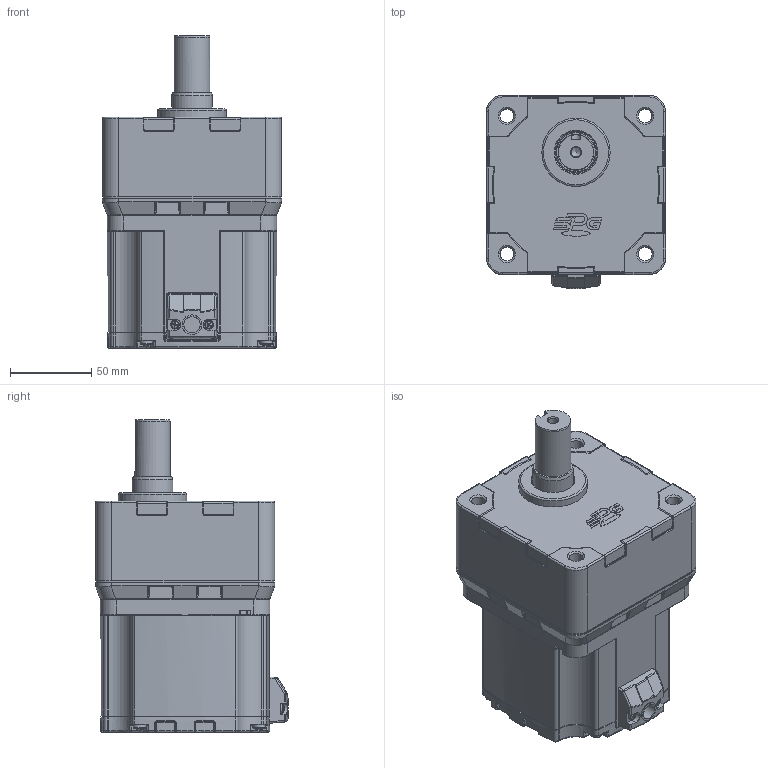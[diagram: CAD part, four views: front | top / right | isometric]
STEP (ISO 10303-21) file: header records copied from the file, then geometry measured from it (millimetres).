
FILE_DESCRIPTION((''),'2;1');
FILE_NAME('C:\Documents and Settings\Administrator\바탕 화면\BLDC 3D FILE\GEARED MOTOR\104-RATIO 5~20.stp','2014-06-19T16:10:16',('kdhkdh'),(''),'Autodesk Inventor 2011','Autodesk Inventor 2011','');
FILE_SCHEMA(('AUTOMOTIVE_DESIGN { 1 0 10303 214 1 1 1 1 }'));
Length unit declared in the file: millimetre
Products named in the file (1): 부품1
Bounding box: 110 x 118.5 x 192 mm (x, y, z)
Volume: 1238927.3 mm3; surface area: 191147.2 mm2
Topology: 1 solids, 14 shells, 1268 faces, 3160 edges, 1901 vertices
Faces by surface type: cylinder 432, plane 362, torus 183, bspline 148, cone 109, sphere 34
Full cylindrical faces by diameter (mm): 2.729 x2, 3 x2, 3.5 x2, 3.621 x4, 4 x12, 4.5 x8, 5.3 x2, 6 x1, 7.64 x4, 8 x4, 8.5 x8, 9.5 x4, 10 x1, 12 x1, 12.04 x1, 13 x1, 15 x1, 22 x2, 25 x2, 26 x1, 42 x1, 81 x1, 94 x2, 95.185 x1, 97 x2
Entity records: 41650 total; most frequent: CARTESIAN_POINT 12764, DIRECTION 6148, ORIENTED_EDGE 5808, EDGE_CURVE 2904, AXIS2_PLACEMENT_3D 2513, VERTEX_POINT 1845, EDGE_LOOP 1475, CIRCLE 1268
